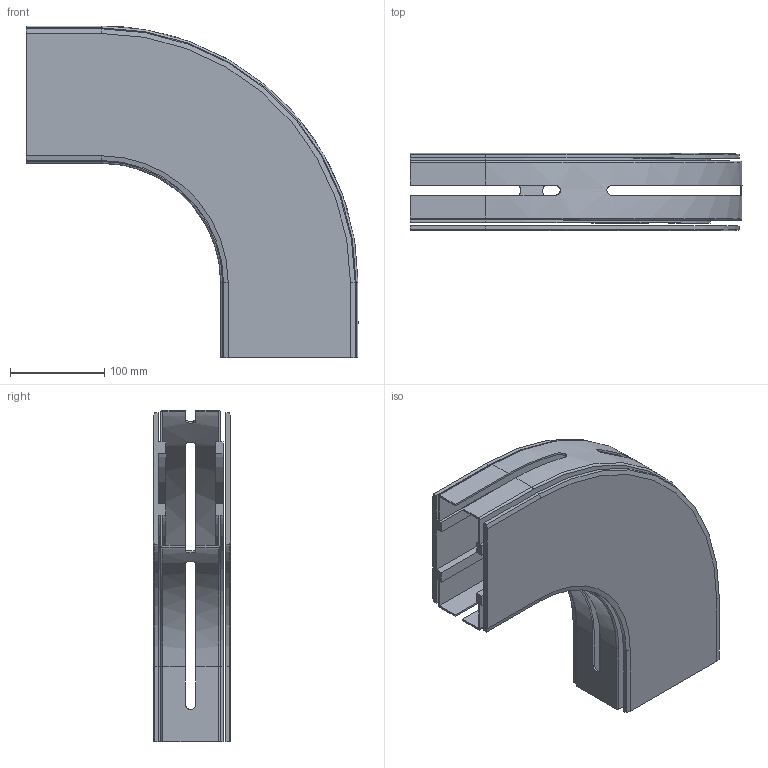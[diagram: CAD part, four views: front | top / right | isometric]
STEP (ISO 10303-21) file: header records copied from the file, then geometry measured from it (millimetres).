
FILE_DESCRIPTION((''),'2;1');
FILE_NAME('C:\Vault Klient\Projekt\Koncept konstruktion\Serie 540 Balk\540-5160.stp','2010-11-24T10:30:10',('Mathias'),(''),'Autodesk Inventor 2011','Autodesk Inventor 2011','');
FILE_SCHEMA(('AUTOMOTIVE_DESIGN { 1 0 10303 214 1 1 1 1 }'));
Length unit declared in the file: millimetre
Products named in the file (1): 540-5160
Bounding box: 353 x 82 x 353 mm (x, y, z)
Volume: 1070420.7 mm3; surface area: 553169.7 mm2
Topology: 2 solids, 2 shells, 163 faces, 458 edges, 300 vertices
Faces by surface type: plane 107, cylinder 28, bspline 18, cone 6, torus 4
Entity records: 5598 total; most frequent: CARTESIAN_POINT 1344, ORIENTED_EDGE 916, DIRECTION 798, EDGE_CURVE 458, VECTOR 338, LINE 338, VERTEX_POINT 300, AXIS2_PLACEMENT_3D 230
